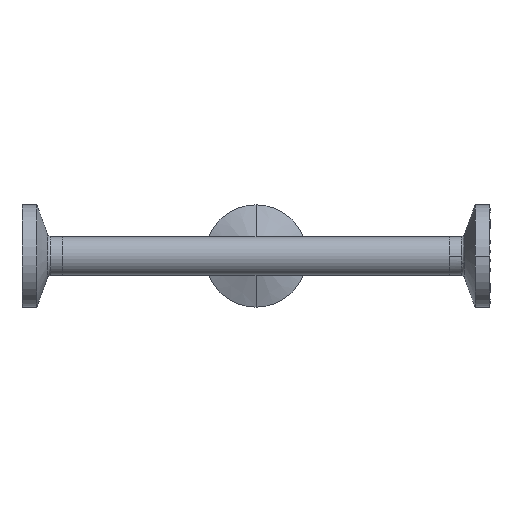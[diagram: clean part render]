
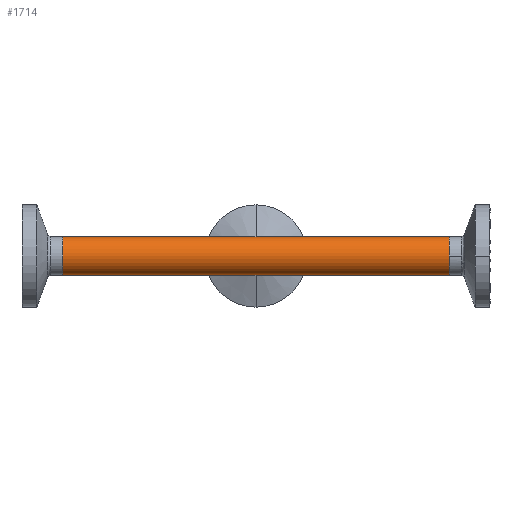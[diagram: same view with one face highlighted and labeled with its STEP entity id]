
A CAD part, front view. The second image highlights one B-rep face of the part: STEP entity #1714.
In plain terms, the highlighted cylindrical face has radius 4.765 mm (diameter 9.53 mm), a partial arc.
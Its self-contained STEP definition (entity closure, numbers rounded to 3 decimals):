
#182 = CARTESIAN_POINT ( 'NONE',  ( 47.2, 0., 4.765 ) ) ;
#354 = EDGE_LOOP ( 'NONE', ( #1548, #2810, #428, #2405 ) ) ;
#361 = CARTESIAN_POINT ( 'NONE',  ( 60.677, 0., 4.765 ) ) ;
#421 = VERTEX_POINT ( 'NONE', #182 ) ;
#428 = ORIENTED_EDGE ( 'NONE', *, *, #796, .T. ) ;
#566 = LINE ( 'NONE', #361, #2848 ) ;
#632 = DIRECTION ( 'NONE',  ( -1., 0., 0. ) ) ;
#676 = DIRECTION ( 'NONE',  ( 1., 0., 0. ) ) ;
#796 = EDGE_CURVE ( 'NONE', #421, #2813, #566, .T. ) ;
#832 = DIRECTION ( 'NONE',  ( -1., 0., 0. ) ) ;
#866 = CARTESIAN_POINT ( 'NONE',  ( 60.677, 0., 0. ) ) ;
#914 = DIRECTION ( 'NONE',  ( 0., 0., 1. ) ) ;
#1332 = CARTESIAN_POINT ( 'NONE',  ( 60.677, 0., -4.765 ) ) ;
#1376 = DIRECTION ( 'NONE',  ( -1., 0., 0. ) ) ;
#1548 = ORIENTED_EDGE ( 'NONE', *, *, #1675, .F. ) ;
#1554 = AXIS2_PLACEMENT_3D ( 'NONE', #1954, #632, #2188 ) ;
#1584 = VERTEX_POINT ( 'NONE', #2404 ) ;
#1603 = CIRCLE ( 'NONE', #2644, 4.765 ) ;
#1625 = VERTEX_POINT ( 'NONE', #1864 ) ;
#1675 = EDGE_CURVE ( 'NONE', #1584, #1625, #2022, .T. ) ;
#1714 = ADVANCED_FACE ( 'NONE', ( #1896 ), #1953, .T. ) ;
#1864 = CARTESIAN_POINT ( 'NONE',  ( -47.2, 0., -4.765 ) ) ;
#1896 = FACE_OUTER_BOUND ( 'NONE', #354, .T. ) ;
#1953 = CYLINDRICAL_SURFACE ( 'NONE', #2618, 4.765 ) ;
#1954 = CARTESIAN_POINT ( 'NONE',  ( 47.2, 0., 0. ) ) ;
#1999 = CARTESIAN_POINT ( 'NONE',  ( -47.2, 0., 0. ) ) ;
#2022 = LINE ( 'NONE', #1332, #2547 ) ;
#2106 = CARTESIAN_POINT ( 'NONE',  ( -47.2, 0., 4.765 ) ) ;
#2188 = DIRECTION ( 'NONE',  ( 0., 0., 1. ) ) ;
#2231 = DIRECTION ( 'NONE',  ( 0., 0., 1. ) ) ;
#2266 = EDGE_CURVE ( 'NONE', #2813, #1625, #1603, .T. ) ;
#2305 = CIRCLE ( 'NONE', #1554, 4.765 ) ;
#2404 = CARTESIAN_POINT ( 'NONE',  ( 47.2, 0., -4.765 ) ) ;
#2405 = ORIENTED_EDGE ( 'NONE', *, *, #2266, .T. ) ;
#2477 = EDGE_CURVE ( 'NONE', #1584, #421, #2305, .T. ) ;
#2547 = VECTOR ( 'NONE', #1376, 1000. ) ;
#2618 = AXIS2_PLACEMENT_3D ( 'NONE', #866, #832, #914 ) ;
#2644 = AXIS2_PLACEMENT_3D ( 'NONE', #1999, #676, #2231 ) ;
#2647 = DIRECTION ( 'NONE',  ( -1., 0., 0. ) ) ;
#2810 = ORIENTED_EDGE ( 'NONE', *, *, #2477, .T. ) ;
#2813 = VERTEX_POINT ( 'NONE', #2106 ) ;
#2848 = VECTOR ( 'NONE', #2647, 1000. ) ;
